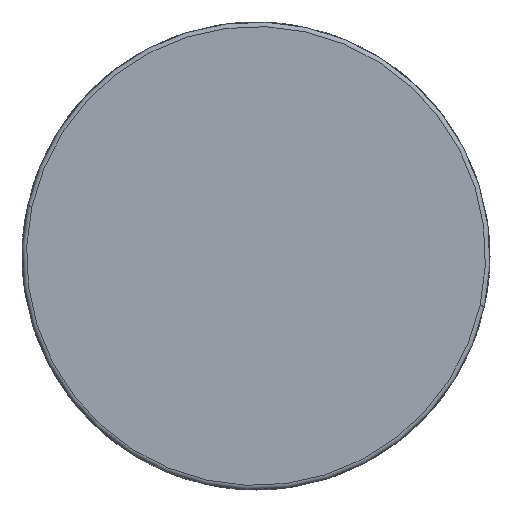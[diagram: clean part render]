
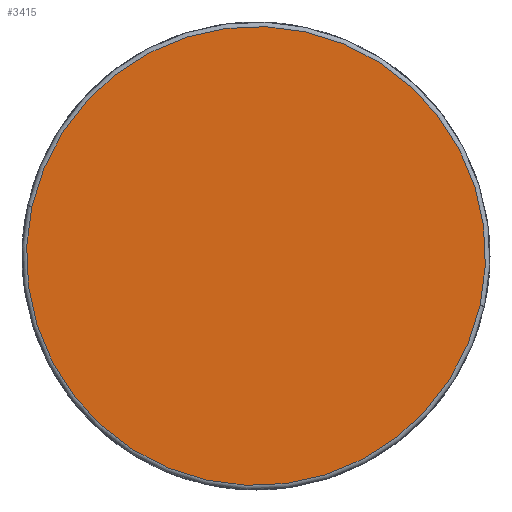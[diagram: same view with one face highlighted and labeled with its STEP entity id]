
A CAD part, front view. The second image highlights one B-rep face of the part: STEP entity #3415.
In plain terms, the highlighted planar face has unit normal (0, -1, 0) as drawn and (0, 0, 1) by its records, which use the part's own axes.
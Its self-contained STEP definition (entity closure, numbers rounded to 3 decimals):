
#34 = ORIENTED_EDGE ( 'NONE', *, *, #3489, .T. ) ;
#286 = DIRECTION ( 'NONE',  ( 1., 0., 0. ) ) ;
#403 = AXIS2_PLACEMENT_3D ( 'NONE', #3756, #978, #2213 ) ;
#735 = DIRECTION ( 'NONE',  ( 0., 0., 1. ) ) ;
#780 = CARTESIAN_POINT ( 'NONE',  ( 25.5, 0., 110. ) ) ;
#978 = DIRECTION ( 'NONE',  ( 0., 0., 1. ) ) ;
#1012 = CARTESIAN_POINT ( 'NONE',  ( 0., 0., 110. ) ) ;
#1475 = EDGE_LOOP ( 'NONE', ( #34, #2850 ) ) ;
#1476 = DIRECTION ( 'NONE',  ( 1., 0., 0. ) ) ;
#2213 = DIRECTION ( 'NONE',  ( 1., 0., 0. ) ) ;
#2322 = CIRCLE ( 'NONE', #4484, 25.5 ) ;
#2548 = FACE_OUTER_BOUND ( 'NONE', #1475, .T. ) ;
#2611 = CIRCLE ( 'NONE', #3780, 25.5 ) ;
#2644 = EDGE_CURVE ( 'NONE', #2801, #4927, #2611, .T. ) ;
#2661 = CARTESIAN_POINT ( 'NONE',  ( 0., 0., 110. ) ) ;
#2801 = VERTEX_POINT ( 'NONE', #3457 ) ;
#2850 = ORIENTED_EDGE ( 'NONE', *, *, #2644, .T. ) ;
#3415 = ADVANCED_FACE ( 'NONE', ( #2548 ), #4153, .T. ) ;
#3457 = CARTESIAN_POINT ( 'NONE',  ( -25.5, 0., 110. ) ) ;
#3489 = EDGE_CURVE ( 'NONE', #4927, #2801, #2322, .T. ) ;
#3756 = CARTESIAN_POINT ( 'NONE',  ( 0., 0., 110. ) ) ;
#3780 = AXIS2_PLACEMENT_3D ( 'NONE', #1012, #4233, #1476 ) ;
#4153 = PLANE ( 'NONE',  #403 ) ;
#4233 = DIRECTION ( 'NONE',  ( 0., 0., 1. ) ) ;
#4484 = AXIS2_PLACEMENT_3D ( 'NONE', #2661, #735, #286 ) ;
#4927 = VERTEX_POINT ( 'NONE', #780 ) ;
